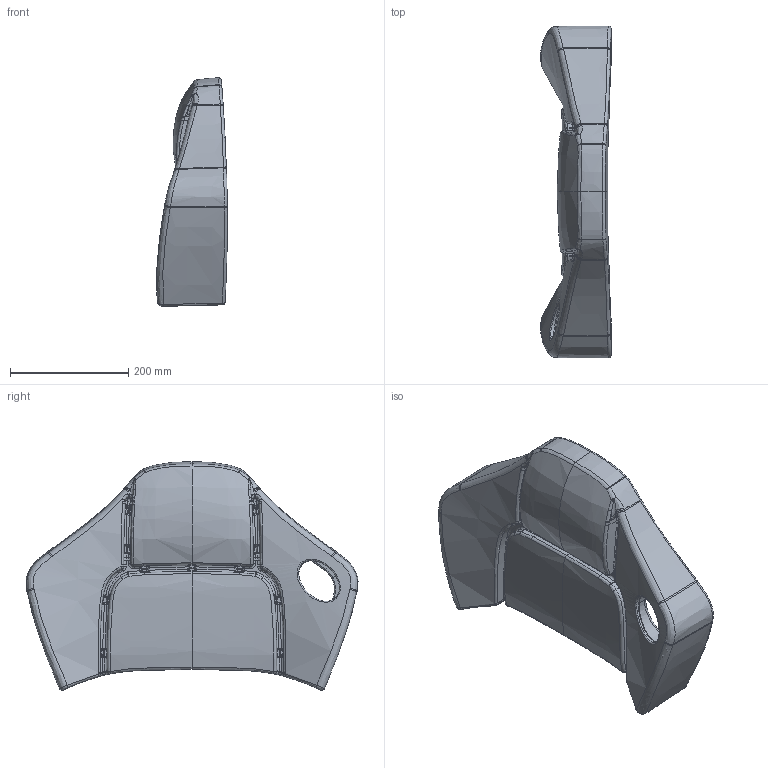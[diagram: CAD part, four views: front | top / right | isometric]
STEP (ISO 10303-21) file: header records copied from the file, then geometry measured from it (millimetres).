
FILE_DESCRIPTION(('CATIA V5 STEP Exchange'),'2;1');
FILE_NAME('C:\Users\Administrator\Desktop\新开件\主驾上背SHT0017997_A.stp','2025-03-26T12:44:23+00:00',('none'),('none'),'CATIA Version 5 Release 20 GA (IN-10)','CATIA V5 STEP AP214','none');
FILE_SCHEMA(('AUTOMOTIVE_DESIGN { 1 0 10303 214 1 1 1 1 }'));
Products named in the file (4): SHT0017997; SHT0018030; SHT0018031; SHT0018032
Assembly tree (4 placements, depth 2):
  SHT0017997
    SHT0018030
    SHT0018031  x2
    SHT0018032
Bounding box: 119.36 x 560.66 x 385.91 mm (x, y, z)
Volume: 7345927 mm3; surface area: 546707.9 mm2
Topology: 4 solids, 4 shells, 2307 faces, 6239 edges, 3826 vertices
Faces by surface type: plane 1401, bspline 583, cylinder 147, sphere 79, extrusion 59, torus 38
Entity records: 142792 total; most frequent: CARTESIAN_POINT 94131, ORIENTED_EDGE 12168, DIRECTION 6401, EDGE_CURVE 6084, VERTEX_POINT 3814, VECTOR 2956, B_SPLINE_CURVE_WITH_KNOTS 2947, LINE 2897
